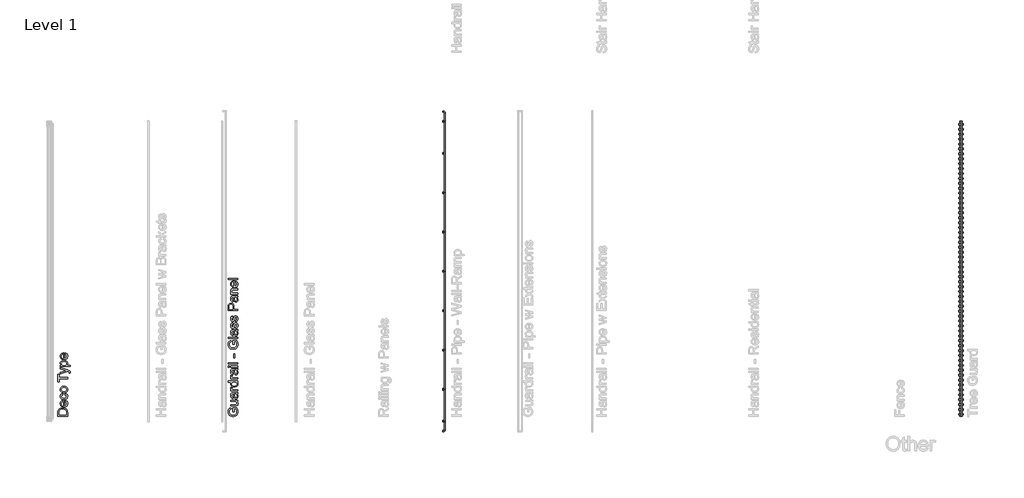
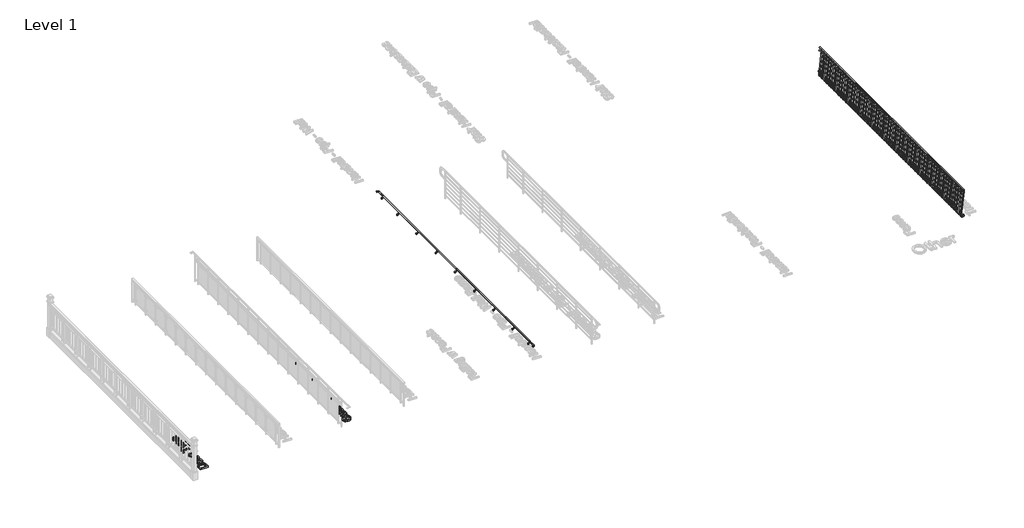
# One storey, part 6 of 14: 2 proxies, 2 railings.
"""IFC4 building model written with IfcOpenShell, lengths in millimetres."""

from ifc_helpers import new_model, si_unit, origin, origin_with_axes, place, context, project, spatial, polyline, outline, extrude, transform, mapped, element, save
from components import handrail_pipe_wall_ramp_800e23aa, tree_guard_ab088758, tree_guard_6df655dc

model = new_model("IFC4")

# Units and contexts
model_context = context("Model", 3, world=origin())
ifc_project = project(units=[si_unit("LENGTHUNIT", "METRE", prefix="MILLI")], contexts=[model_context])

# Site, building, storey
site = spatial("IfcSite", under=ifc_project)
building = spatial("IfcBuilding", under=site)
storey = spatial("IfcBuildingStorey", under=building, Name="Level 1", Elevation=0.0)

# Proxies
placement = place(None, origin())
element("IfcBuildingElementProxy", 1, Name="12\" Arial", ObjectType="12\" Arial", at=placement, inside=storey, context=model_context, shape_type="SweptSolid", body=[
    extrude(outline(polyline([(-12583.8849278, -14350.6919282), (-12621.3987739, -14350.6919282), (-12621.3987739, -14228.7719282), (-12509.2235816, -14228.7719282), (-12488.6166105, -14258.4001734), (-12473.8345432, -14288.9626013), (-12464.9323316, -14320.3859426), (-12461.9649278, -14352.5969282), (-12466.6816345, -14394.6809426), (-12480.8317547, -14432.716832), (-12503.920721, -14464.3141878), (-12535.4539662, -14487.0826013), (-12573.2792066, -14500.848058), (-12615.2441585, -14505.4365436), (-12657.511346, -14500.8663753), (-12696.829447, -14487.1558705), (-12729.8097595, -14464.8728657), (-12753.0635816, -14434.5851974), (-12766.8565143, -14397.6941397), (-12771.4541585, -14355.6009666), (-12768.7889903, -14324.6996686), (-12760.7934855, -14296.9123128), (-12748.0446393, -14273.5119522), (-12731.119447, -14255.7716397), (-12709.2027883, -14242.6472888), (-12681.4795432, -14233.0948128), (-12671.7347355, -14267.6778897), (-12691.5082691, -14275.3986349), (-12706.4277162, -14284.7862551), (-12717.6745432, -14297.2053897), (-12726.4302162, -14314.0206782), (-12732.0627883, -14334.0689714), (-12733.9403124, -14356.1871205), (-12731.9162499, -14382.0786349), (-12725.8440624, -14404.2151013), (-12716.4839182, -14422.5140916), (-12704.5959855, -14436.8931782), (-12675.6912739, -14456.1996205), (-12647.3727162, -14464.9919282), (-12616.7828124, -14467.9226974), (-12580.9083653, -14464.3966157), (-12551.3900239, -14453.8183705), (-12528.4384374, -14436.5085147), (-12512.2642547, -14412.7876013), (-12502.6751441, -14385.0277214), (-12499.4787739, -14355.6009666), (-12501.8874999, -14329.6178657), (-12509.1136778, -14304.2758705), (-12519.0691345, -14282.2676253), (-12529.665697, -14266.2857743), (-12583.8849278, -14266.2857743), (-12583.8849278, -14350.6919282)])), origin_with_axes(), (0.0, 0.0, 1.0), 50.8),
    extrude(outline(polyline([(-12466.6541585, -14031.8242359), (-12504.5343508, -14031.8242359), (-12485.9102282, -14045.3973609), (-12472.6072835, -14061.2051974), (-12464.6255167, -14079.2477455), (-12461.9649278, -14099.5250051), (-12463.8332932, -14117.7965195), (-12469.4383893, -14134.8041397), (-12477.8643508, -14149.0733224), (-12488.1953124, -14159.1295243), (-12515.8178124, -14170.303082), (-12550.6939662, -14172.5011589), (-12687.0480047, -14172.5011589), (-12687.0480047, -14134.9873128), (-12568.3518508, -14134.9873128), (-12530.1053124, -14132.7159666), (-12517.3473076, -14127.2482503), (-12507.6482932, -14117.8789474), (-12501.5211537, -14105.2308464), (-12499.4787739, -14089.9267359), (-12501.566947, -14073.7433945), (-12507.8314662, -14058.6041397), (-12517.6953364, -14046.1208945), (-12530.5815624, -14037.905582), (-12548.2302883, -14033.3445724), (-12572.3816585, -14031.8242359), (-12687.0480047, -14031.8242359), (-12687.0480047, -13994.3103897), (-12466.6541585, -13994.3103897), (-12466.6541585, -14031.8242359)])), origin_with_axes(), (0.0, 0.0, 1.0), 50.8),
    extrude(outline(polyline([(-12494.7895432, -13802.0519282), (-12479.421322, -13819.9754138), (-12469.3651201, -13838.4301013), (-12463.8149758, -13857.8372888), (-12461.9649278, -13878.6182743), (-12466.4160335, -13909.9683464), (-12479.7693508, -13933.0939474), (-12500.0466105, -13947.3539714), (-12525.2695432, -13952.1073128), (-12540.8209374, -13950.3122166), (-12554.9435816, -13944.9269282), (-12567.0330047, -13936.6200291), (-12576.4847355, -13926.0601013), (-12588.7939662, -13899.793082), (-12594.435697, -13867.3348128), (-12600.3705047, -13828.9783705), (-12607.3310816, -13802.2717359), (-12615.6837739, -13802.0519282), (-12632.4257932, -13804.6346686), (-12643.3795432, -13812.3828897), (-12651.5124278, -13829.7110628), (-12654.2233893, -13853.8532743), (-12652.4191345, -13876.2003897), (-12647.0063701, -13891.8067359), (-12636.9959614, -13902.4490916), (-12621.3987739, -13909.9042359), (-12626.0880047, -13947.418082), (-12646.6033893, -13940.9062791), (-12662.7226201, -13931.1889474), (-12675.0501682, -13917.3593801), (-12684.1905047, -13898.5108705), (-12689.8505528, -13875.4585388), (-12691.7372355, -13849.0175051), (-12690.0703605, -13823.6571926), (-12685.0697355, -13803.5539474), (-12677.5504807, -13788.3963753), (-12668.3277162, -13777.873082), (-12656.9251922, -13770.8941878), (-12642.8666585, -13766.3698128), (-12610.0420432, -13764.538082), (-12563.3695432, -13764.538082), (-12498.1965624, -13762.633082), (-12466.6541585, -13755.1596205), (-12466.6541585, -13792.6734666), (-12494.7895432, -13802.0519282)]), holes=[polyline([(-12569.8172355, -13802.0519282), (-12558.3139662, -13862.5723128), (-12552.2326201, -13894.8474089), (-12542.3412739, -13909.4646205), (-12527.9072355, -13914.5934666), (-12516.7519951, -13911.8000772), (-12507.6116585, -13903.4199089), (-12501.5119951, -13889.6361349), (-12499.4787739, -13870.6319282), (-12501.7226441, -13850.4828897), (-12508.4542547, -13832.6784666), (-12518.3730768, -13818.2444282), (-12530.1785816, -13808.2065436), (-12542.3412739, -13803.7554378), (-12559.193197, -13802.2717359), (-12569.8172355, -13802.0519282)])]), origin_with_axes(), (0.0, 0.0, 1.0), 50.8),
    extrude(outline(polyline([(-12466.6541585, -13712.9565436), (-12687.0480047, -13712.9565436), (-12687.0480047, -13680.1319282), (-12654.443197, -13680.1319282), (-12673.3466585, -13668.0058705), (-12684.4835816, -13656.8323128), (-12689.923822, -13645.6221205), (-12691.7372355, -13633.3861589), (-12688.8431008, -13614.7025051), (-12680.160697, -13595.7257743), (-12646.5301201, -13608.2548128), (-12652.300072, -13621.4432743), (-12654.2233893, -13634.6317359), (-12652.3733412, -13645.8327695), (-12646.823197, -13655.8431782), (-12637.9942547, -13663.9302695), (-12626.3078124, -13669.3613513), (-12605.3528124, -13673.9223609), (-12582.4928124, -13675.4426974), (-12466.6541585, -13675.4426974), (-12466.6541585, -13712.9565436)])), origin_with_axes(), (0.0, 0.0, 1.0), 50.8),
    extrude(outline(polyline([(-12466.6541585, -13436.2919282), (-12502.043197, -13436.2919282), (-12484.5089542, -13447.5158585), (-12471.9844951, -13461.1118801), (-12464.4698196, -13477.0799931), (-12461.9649278, -13495.4201974), (-12465.5917547, -13519.6723128), (-12476.4722355, -13541.8728897), (-12493.8462018, -13560.6664474), (-12516.9534855, -13574.6975051), (-12544.8599037, -13583.4348609), (-12576.6312739, -13586.3473128), (-12608.008822, -13583.6638272), (-12636.345697, -13575.6133705), (-12660.0299758, -13562.2051013), (-12677.4497355, -13543.4481782), (-12688.1653605, -13520.7621926), (-12691.7372355, -13495.5667359), (-12689.181971, -13477.2127936), (-12681.5161778, -13460.9836589), (-12669.7656249, -13447.2273609), (-12654.9560816, -13436.2919282), (-12766.7649278, -13436.2919282), (-12766.7649278, -13398.778082), (-12466.6541585, -13398.778082), (-12466.6541585, -13436.2919282)]), holes=[polyline([(-12576.7778124, -13548.8334666), (-12542.8449999, -13544.6021686), (-12518.711947, -13531.9082743), (-12504.2870672, -13513.4627455), (-12499.4787739, -13491.9765436), (-12504.0672595, -13470.4995003), (-12517.8327162, -13452.5210628), (-12541.0315864, -13440.3492118), (-12573.9203124, -13436.2919282), (-12609.8771874, -13440.4224811), (-12634.8070432, -13452.8141397), (-12649.3693028, -13471.2505099), (-12654.2233893, -13493.5151974), (-12649.5616345, -13515.221207), (-12635.5763701, -13533.0073128), (-12611.553221, -13544.8769282), (-12576.7778124, -13548.8334666)])]), origin_with_axes(), (0.0, 0.0, 1.0), 50.8),
    extrude(outline(polyline([(-12466.6541585, -13342.5073128), (-12687.0480047, -13342.5073128), (-12687.0480047, -13309.6826974), (-12654.443197, -13309.6826974), (-12673.3466585, -13297.5566397), (-12684.4835816, -13286.383082), (-12689.923822, -13275.1728897), (-12691.7372355, -13262.9369282), (-12688.8431008, -13244.2532743), (-12680.160697, -13225.2765436), (-12646.5301201, -13237.805582), (-12652.300072, -13250.9940436), (-12654.2233893, -13264.1825051), (-12652.3733412, -13275.3835388), (-12646.823197, -13285.3939474), (-12637.9942547, -13293.4810388), (-12626.3078124, -13298.9121205), (-12605.3528124, -13303.4731301), (-12582.4928124, -13304.9934666), (-12466.6541585, -13304.9934666), (-12466.6541585, -13342.5073128)])), origin_with_axes(), (0.0, 0.0, 1.0), 50.8),
    extrude(outline(polyline([(-12494.7895432, -13061.1534666), (-12479.421322, -13079.0769522), (-12469.3651201, -13097.5316397), (-12463.8149758, -13116.9388272), (-12461.9649278, -13137.7198128), (-12466.4160335, -13169.0698849), (-12479.7693508, -13192.1954859), (-12500.0466105, -13206.4555099), (-12525.2695432, -13211.2088513), (-12540.8209374, -13209.4137551), (-12554.9435816, -13204.0284666), (-12567.0330047, -13195.7215676), (-12576.4847355, -13185.1616397), (-12588.7939662, -13158.8946205), (-12594.435697, -13126.4363513), (-12600.3705047, -13088.0799089), (-12607.3310816, -13061.3732743), (-12615.6837739, -13061.1534666), (-12632.4257932, -13063.736207), (-12643.3795432, -13071.4844282), (-12651.5124278, -13088.8126013), (-12654.2233893, -13112.9548128), (-12652.4191345, -13135.3019282), (-12647.0063701, -13150.9082743), (-12636.9959614, -13161.5506301), (-12621.3987739, -13169.0057743), (-12626.0880047, -13206.5196205), (-12646.6033893, -13200.0078176), (-12662.7226201, -13190.2904859), (-12675.0501682, -13176.4609186), (-12684.1905047, -13157.6124089), (-12689.8505528, -13134.5600772), (-12691.7372355, -13108.1190436), (-12690.0703605, -13082.7587311), (-12685.0697355, -13062.6554859), (-12677.5504807, -13047.4979138), (-12668.3277162, -13036.9746205), (-12656.9251922, -13029.9957263), (-12642.8666585, -13025.4713513), (-12610.0420432, -13023.6396205), (-12563.3695432, -13023.6396205), (-12498.1965624, -13021.7346205), (-12466.6541585, -13014.2611589), (-12466.6541585, -13051.7750051), (-12494.7895432, -13061.1534666)]), holes=[polyline([(-12569.8172355, -13061.1534666), (-12558.3139662, -13121.6738513), (-12552.2326201, -13153.9489474), (-12542.3412739, -13168.5661589), (-12527.9072355, -13173.6950051), (-12516.7519951, -13170.9016157), (-12507.6116585, -13162.5214474), (-12501.5119951, -13148.7376734), (-12499.4787739, -13129.7334666), (-12501.7226441, -13109.5844282), (-12508.4542547, -13091.7800051), (-12518.3730768, -13077.3459666), (-12530.1785816, -13067.308082), (-12542.3412739, -13062.8569763), (-12559.193197, -13061.3732743), (-12569.8172355, -13061.1534666)])]), origin_with_axes(), (0.0, 0.0, 1.0), 50.8),
    extrude(outline(polyline([(-12729.2510816, -12972.058082), (-12766.7649278, -12972.058082), (-12766.7649278, -12934.5442359), (-12729.2510816, -12934.5442359), (-12729.2510816, -12972.058082)])), origin_with_axes(), (0.0, 0.0, 1.0), 50.8),
    extrude(outline(polyline([(-12466.6541585, -12972.058082), (-12687.0480047, -12972.058082), (-12687.0480047, -12934.5442359), (-12466.6541585, -12934.5442359), (-12466.6541585, -12972.058082)])), origin_with_axes(), (0.0, 0.0, 1.0), 50.8),
    extrude(outline(polyline([(-12466.6541585, -12878.2734666), (-12766.7649278, -12878.2734666), (-12766.7649278, -12840.7596205), (-12466.6541585, -12840.7596205), (-12466.6541585, -12878.2734666)])), origin_with_axes(), (0.0, 0.0, 1.0), 50.8),
    extrude(outline(polyline([(-12555.7495432, -12686.0150051), (-12593.2633893, -12686.0150051), (-12593.2633893, -12568.7842359), (-12555.7495432, -12568.7842359), (-12555.7495432, -12686.0150051)])), origin_with_axes(), (0.0, 0.0, 1.0), 50.8),
    extrude(outline(polyline([(-12583.8849278, -12263.9842359), (-12621.3987739, -12263.9842359), (-12621.3987739, -12142.0642359), (-12509.2235816, -12142.0642359), (-12488.6166105, -12171.6924811), (-12473.8345432, -12202.2549089), (-12464.9323316, -12233.6782503), (-12461.9649278, -12265.8892359), (-12466.6816345, -12307.9732503), (-12480.8317547, -12346.0091397), (-12503.920721, -12377.6064955), (-12535.4539662, -12400.3749089), (-12573.2792066, -12414.1403657), (-12615.2441585, -12418.7288513), (-12657.511346, -12414.158683), (-12696.829447, -12400.4481782), (-12729.8097595, -12378.1651734), (-12753.0635816, -12347.8775051), (-12766.8565143, -12310.9864474), (-12771.4541585, -12268.8932743), (-12768.7889903, -12237.9919763), (-12760.7934855, -12210.2046205), (-12748.0446393, -12186.8042599), (-12731.119447, -12169.0639474), (-12709.2027883, -12155.9395964), (-12681.4795432, -12146.3871205), (-12671.7347355, -12180.9701974), (-12691.5082691, -12188.6909426), (-12706.4277162, -12198.0785628), (-12717.6745432, -12210.4976974), (-12726.4302162, -12227.3129859), (-12732.0627883, -12247.3612791), (-12733.9403124, -12269.4794282), (-12731.9162499, -12295.3709426), (-12725.8440624, -12317.5074089), (-12716.4839182, -12335.8063993), (-12704.5959855, -12350.1854859), (-12675.6912739, -12369.4919282), (-12647.3727162, -12378.2842359), (-12616.7828124, -12381.2150051), (-12580.9083653, -12377.6889234), (-12551.3900239, -12367.1106782), (-12528.4384374, -12349.8008224), (-12512.2642547, -12326.0799089), (-12502.6751441, -12298.3200291), (-12499.4787739, -12268.8932743), (-12501.8874999, -12242.9101734), (-12509.1136778, -12217.5681782), (-12519.0691345, -12195.559933), (-12529.665697, -12179.578082), (-12583.8849278, -12179.578082), (-12583.8849278, -12263.9842359)])), origin_with_axes(), (0.0, 0.0, 1.0), 50.8),
    extrude(outline(polyline([(-12466.6541585, -12085.7934666), (-12766.7649278, -12085.7934666), (-12766.7649278, -12048.2796205), (-12466.6541585, -12048.2796205), (-12466.6541585, -12085.7934666)])), origin_with_axes(), (0.0, 0.0, 1.0), 50.8),
    extrude(outline(polyline([(-12494.7895432, -11851.3319282), (-12479.421322, -11869.2554138), (-12469.3651201, -11887.7101013), (-12463.8149758, -11907.1172888), (-12461.9649278, -11927.8982743), (-12466.4160335, -11959.2483464), (-12479.7693508, -11982.3739474), (-12500.0466105, -11996.6339714), (-12525.2695432, -12001.3873128), (-12540.8209374, -11999.5922166), (-12554.9435816, -11994.2069282), (-12567.0330047, -11985.9000291), (-12576.4847355, -11975.3401013), (-12588.7939662, -11949.073082), (-12594.435697, -11916.6148128), (-12600.3705047, -11878.2583705), (-12607.3310816, -11851.5517359), (-12615.6837739, -11851.3319282), (-12632.4257932, -11853.9146686), (-12643.3795432, -11861.6628897), (-12651.5124278, -11878.9910628), (-12654.2233893, -11903.1332743), (-12652.4191345, -11925.4803897), (-12647.0063701, -11941.0867359), (-12636.9959614, -11951.7290916), (-12621.3987739, -11959.1842359), (-12626.0880047, -11996.698082), (-12646.6033893, -11990.1862791), (-12662.7226201, -11980.4689474), (-12675.0501682, -11966.6393801), (-12684.1905047, -11947.7908705), (-12689.8505528, -11924.7385388), (-12691.7372355, -11898.2975051), (-12690.0703605, -11872.9371926), (-12685.0697355, -11852.8339474), (-12677.5504807, -11837.6763753), (-12668.3277162, -11827.153082), (-12656.9251922, -11820.1741878), (-12642.8666585, -11815.6498128), (-12610.0420432, -11813.818082), (-12563.3695432, -11813.818082), (-12498.1965624, -11811.913082), (-12466.6541585, -11804.4396205), (-12466.6541585, -11841.9534666), (-12494.7895432, -11851.3319282)]), holes=[polyline([(-12569.8172355, -11851.3319282), (-12558.3139662, -11911.8523128), (-12552.2326201, -11944.1274089), (-12542.3412739, -11958.7446205), (-12527.9072355, -11963.8734666), (-12516.7519951, -11961.0800772), (-12507.6116585, -11952.6999089), (-12501.5119951, -11938.9161349), (-12499.4787739, -11919.9119282), (-12501.7226441, -11899.7628897), (-12508.4542547, -11881.9584666), (-12518.3730768, -11867.5244282), (-12530.1785816, -11857.4865436), (-12542.3412739, -11853.0354378), (-12559.193197, -11851.5517359), (-12569.8172355, -11851.3319282)])]), origin_with_axes(), (0.0, 0.0, 1.0), 50.8),
    extrude(outline(polyline([(-12532.3033893, -11776.3042359), (-12536.9926201, -11738.7903897), (-12520.9466585, -11732.8738993), (-12509.1503124, -11721.425582), (-12501.8966585, -11704.3721686), (-12499.4787739, -11681.6403897), (-12501.6951682, -11659.1833705), (-12508.3443508, -11643.3938513), (-12517.9792547, -11634.0520243), (-12529.1528124, -11630.938082), (-12538.714447, -11634.0703416), (-12546.0047355, -11643.4671205), (-12556.7020432, -11682.0800051), (-12575.0559855, -11738.570582), (-12584.2787499, -11752.8672407), (-12596.4872355, -11763.2256782), (-12610.9029566, -11769.5176734), (-12626.7474278, -11771.6150051), (-12641.2822114, -11769.9298128), (-12654.6996393, -11764.8742359), (-12666.4685095, -11756.906207), (-12676.0576201, -11746.4836589), (-12687.1579085, -11722.6345243), (-12691.7372355, -11690.3594282), (-12689.896346, -11665.942457), (-12684.3736778, -11644.7126974), (-12675.7095912, -11627.6409666), (-12664.444447, -11615.698082), (-12649.7448076, -11607.7850051), (-12630.7772355, -11602.8026974), (-12626.0880047, -11640.3165436), (-12637.8935095, -11645.0515676), (-12646.7865624, -11654.4208705), (-12652.3641826, -11668.5160388), (-12654.2233893, -11687.4286589), (-12652.4466105, -11708.9698128), (-12647.1162739, -11723.330582), (-12639.4230047, -11731.4085147), (-12630.5574278, -11734.1011589), (-12619.6403124, -11729.6317359), (-12611.3608893, -11715.6373128), (-12603.3745432, -11683.325582), (-12585.7166585, -11628.2637551), (-12577.2723797, -11613.7198128), (-12565.7141585, -11602.6927936), (-12551.0053605, -11595.7413753), (-12533.1093508, -11593.4242359), (-12514.6088701, -11596.1443561), (-12497.2074278, -11604.3047166), (-12482.2696633, -11617.5939234), (-12471.1602162, -11635.700582), (-12464.2637499, -11657.5714474), (-12461.9649278, -11682.1532743), (-12466.3977162, -11719.9785147), (-12479.6960816, -11747.5826974), (-12501.7134855, -11766.0099089), (-12532.3033893, -11776.3042359)])), origin_with_axes(), (0.0, 0.0, 1.0), 50.8),
    extrude(outline(polyline([(-12532.3033893, -11565.2888513), (-12536.9926201, -11527.7750051), (-12520.9466585, -11521.8585147), (-12509.1503124, -11510.4101974), (-12501.8966585, -11493.3567839), (-12499.4787739, -11470.6250051), (-12501.6951682, -11448.1679859), (-12508.3443508, -11432.3784666), (-12517.9792547, -11423.0366397), (-12529.1528124, -11419.9226974), (-12538.714447, -11423.054957), (-12546.0047355, -11432.4517359), (-12556.7020432, -11471.0646205), (-12575.0559855, -11527.5551974), (-12584.2787499, -11541.8518561), (-12596.4872355, -11552.2102936), (-12610.9029566, -11558.5022888), (-12626.7474278, -11560.5996205), (-12641.2822114, -11558.9144282), (-12654.6996393, -11553.8588513), (-12666.4685095, -11545.8908224), (-12676.0576201, -11535.4682743), (-12687.1579085, -11511.6191397), (-12691.7372355, -11479.3440436), (-12689.896346, -11454.9270724), (-12684.3736778, -11433.6973128), (-12675.7095912, -11416.625582), (-12664.444447, -11404.6826974), (-12649.7448076, -11396.7696205), (-12630.7772355, -11391.7873128), (-12626.0880047, -11429.3011589), (-12637.8935095, -11434.036183), (-12646.7865624, -11443.4054859), (-12652.3641826, -11457.5006541), (-12654.2233893, -11476.4132743), (-12652.4466105, -11497.9544282), (-12647.1162739, -11512.3151974), (-12639.4230047, -11520.3931301), (-12630.5574278, -11523.0857743), (-12619.6403124, -11518.6163513), (-12611.3608893, -11504.6219282), (-12603.3745432, -11472.3101974), (-12585.7166585, -11417.2483705), (-12577.2723797, -11402.7044282), (-12565.7141585, -11391.6774089), (-12551.0053605, -11384.7259907), (-12533.1093508, -11382.4088513), (-12514.6088701, -11385.1289714), (-12497.2074278, -11393.289332), (-12482.2696633, -11406.5785388), (-12471.1602162, -11424.6851974), (-12464.2637499, -11446.5560628), (-12461.9649278, -11471.1378897), (-12466.3977162, -11508.9631301), (-12479.6960816, -11536.5673128), (-12501.7134855, -11554.9945243), (-12532.3033893, -11565.2888513)])), origin_with_axes(), (0.0, 0.0, 1.0), 50.8),
    extrude(outline(polyline([(-12466.6541585, -11218.2857743), (-12766.7649278, -11218.2857743), (-12766.7649278, -11107.063082), (-12763.9074278, -11062.2223128), (-12758.5679326, -11042.2289714), (-12749.8763701, -11025.7708705), (-12737.4389182, -11012.5182984), (-12720.8617547, -11002.1415436), (-12701.3080287, -10995.4374089), (-12679.9408893, -10993.2026974), (-12661.5182571, -10994.7115856), (-12644.5701682, -10999.2382503), (-12629.0966225, -11006.7826914), (-12615.0976201, -11017.3449089), (-12603.4936057, -11031.8453476), (-12595.2050239, -11051.2044522), (-12590.2318749, -11075.4222226), (-12588.5741585, -11104.4986589), (-12588.5741585, -11180.7719282), (-12466.6541585, -11180.7719282), (-12466.6541585, -11218.2857743)]), holes=[polyline([(-12626.0880047, -11180.7719282), (-12626.0880047, -11102.300582), (-12629.5316585, -11069.0363513), (-12639.8626201, -11047.055582), (-12656.4397835, -11034.8013032), (-12678.6220432, -11030.7165436), (-12695.4739662, -11033.1252695), (-12709.688197, -11040.3514474), (-12720.3855047, -11051.4975291), (-12726.6866585, -11065.6659666), (-12729.2510816, -11103.1798128), (-12729.2510816, -11180.7719282), (-12626.0880047, -11180.7719282)])]), origin_with_axes(), (0.0, 0.0, 1.0), 50.8),
    extrude(outline(polyline([(-12494.7895432, -10805.6334666), (-12479.421322, -10823.5569522), (-12469.3651201, -10842.0116397), (-12463.8149758, -10861.4188272), (-12461.9649278, -10882.1998128), (-12466.4160335, -10913.5498849), (-12479.7693508, -10936.6754859), (-12500.0466105, -10950.9355099), (-12525.2695432, -10955.6888513), (-12540.8209374, -10953.8937551), (-12554.9435816, -10948.5084666), (-12567.0330047, -10940.2015676), (-12576.4847355, -10929.6416397), (-12588.7939662, -10903.3746205), (-12594.435697, -10870.9163513), (-12600.3705047, -10832.5599089), (-12607.3310816, -10805.8532743), (-12615.6837739, -10805.6334666), (-12632.4257932, -10808.216207), (-12643.3795432, -10815.9644282), (-12651.5124278, -10833.2926013), (-12654.2233893, -10857.4348128), (-12652.4191345, -10879.7819282), (-12647.0063701, -10895.3882743), (-12636.9959614, -10906.0306301), (-12621.3987739, -10913.4857743), (-12626.0880047, -10950.9996205), (-12646.6033893, -10944.4878176), (-12662.7226201, -10934.7704859), (-12675.0501682, -10920.9409186), (-12684.1905047, -10902.0924089), (-12689.8505528, -10879.0400772), (-12691.7372355, -10852.5990436), (-12690.0703605, -10827.2387311), (-12685.0697355, -10807.1354859), (-12677.5504807, -10791.9779138), (-12668.3277162, -10781.4546205), (-12656.9251922, -10774.4757263), (-12642.8666585, -10769.9513513), (-12610.0420432, -10768.1196205), (-12563.3695432, -10768.1196205), (-12498.1965624, -10766.2146205), (-12466.6541585, -10758.7411589), (-12466.6541585, -10796.2550051), (-12494.7895432, -10805.6334666)]), holes=[polyline([(-12569.8172355, -10805.6334666), (-12558.3139662, -10866.1538513), (-12552.2326201, -10898.4289474), (-12542.3412739, -10913.0461589), (-12527.9072355, -10918.1750051), (-12516.7519951, -10915.3816157), (-12507.6116585, -10907.0014474), (-12501.5119951, -10893.2176734), (-12499.4787739, -10874.2134666), (-12501.7226441, -10854.0644282), (-12508.4542547, -10836.2600051), (-12518.3730768, -10821.8259666), (-12530.1785816, -10811.788082), (-12542.3412739, -10807.3369763), (-12559.193197, -10805.8532743), (-12569.8172355, -10805.6334666)])]), origin_with_axes(), (0.0, 0.0, 1.0), 50.8),
    extrude(outline(polyline([(-12466.6541585, -10716.538082), (-12687.0480047, -10716.538082), (-12687.0480047, -10679.0242359), (-12656.2749278, -10679.0242359), (-12671.7896874, -10665.9914714), (-12682.8716585, -10650.339332), (-12689.5208412, -10632.0678176), (-12691.7372355, -10611.1769282), (-12689.951298, -10592.6856061), (-12684.5934855, -10575.7512551), (-12676.3323797, -10561.6286109), (-12665.8365624, -10551.5724089), (-12638.250697, -10540.325582), (-12601.9824278, -10538.3473128), (-12466.6541585, -10538.3473128), (-12466.6541585, -10575.8611589), (-12596.9268508, -10575.8611589), (-12630.1178124, -10580.1840436), (-12639.9999999, -10586.1646445), (-12647.6657932, -10595.4606782), (-12652.5839903, -10607.3760868), (-12654.2233893, -10621.2148128), (-12650.5416105, -10643.1864234), (-12639.4962739, -10661.9158705), (-12630.4795792, -10669.4007803), (-12618.1566105, -10674.7471445), (-12583.5918508, -10679.0242359), (-12466.6541585, -10679.0242359), (-12466.6541585, -10716.538082)])), origin_with_axes(), (0.0, 0.0, 1.0), 50.8),
    extrude(outline(polyline([(-12532.3033893, -10332.4607743), (-12527.6141585, -10295.6796205), (-12499.900072, -10308.9321926), (-12479.183197, -10330.0795243), (-12466.2694951, -10358.6453657), (-12461.9649278, -10394.1534666), (-12463.8218448, -10417.4301854), (-12469.392596, -10438.169957), (-12478.6771814, -10456.3727815), (-12491.6756008, -10472.0386589), (-12508.0260876, -10484.6363873), (-12527.3668749, -10493.6347647), (-12549.6979626, -10499.0337912), (-12575.0193508, -10500.8334666), (-12601.1993629, -10499.0154739), (-12624.2745912, -10493.5614955), (-12644.2450359, -10484.4715315), (-12661.110697, -10471.745582), (-12674.5098076, -10456.1209186), (-12684.0806008, -10438.3348128), (-12689.8230768, -10418.3872647), (-12691.7372355, -10396.2782743), (-12689.8276561, -10374.8813693), (-12684.0989182, -10355.5314234), (-12674.5510215, -10338.2284366), (-12661.1839662, -10322.9724089), (-12644.3549398, -10310.5189294), (-12624.4211297, -10301.6235868), (-12601.3825359, -10296.2863813), (-12575.2391585, -10294.5073128), (-12565.1280047, -10294.7271205), (-12565.1280047, -10463.3196205), (-12537.047572, -10456.8261349), (-12516.4039662, -10441.741832), (-12503.710072, -10419.9717118), (-12499.4787739, -10393.4207743), (-12501.4387258, -10373.4549089), (-12507.3185816, -10356.6396205), (-12517.4846874, -10342.9749089), (-12532.3033893, -10332.4607743)]), holes=[polyline([(-12602.6418508, -10463.3196205), (-12602.6418508, -10332.0211589), (-12622.4611778, -10337.0950532), (-12636.6387739, -10347.0413513), (-12649.8272355, -10368.9122166), (-12654.2233893, -10396.4248128), (-12650.7156249, -10421.7118561), (-12640.1923316, -10442.6210628), (-12623.7891826, -10457.1558464), (-12602.6418508, -10463.3196205)])]), origin_with_axes(), (0.0, 0.0, 1.0), 50.8),
    extrude(outline(polyline([(-12466.6541585, -10256.9934666), (-12766.7649278, -10256.9934666), (-12766.7649278, -10219.4796205), (-12466.6541585, -10219.4796205), (-12466.6541585, -10256.9934666)])), origin_with_axes(), (0.0, 0.0, 1.0), 50.8),
])
element("IfcBuildingElementProxy", 2, Name="12\" Arial", ObjectType="12\" Arial", at=placement, inside=storey, context=model_context, shape_type="SweptSolid", body=[
    extrude(outline(polyline([(-17740.5753423, -14491.3688513), (-18040.6861115, -14491.3688513), (-18040.6861115, -14387.8394282), (-18036.3632269, -14334.2796205), (-18028.0288519, -14310.3572166), (-18014.8953423, -14290.1715436), (-17992.0353423, -14269.4180339), (-17963.6068807, -14254.6359666), (-17930.1594769, -14245.788707), (-17892.24265, -14242.8396205), (-17860.0316644, -14244.836207), (-17831.6856307, -14250.8259666), (-17807.5525778, -14259.9479859), (-17787.9805346, -14271.3413513), (-17772.5298855, -14284.4565436), (-17760.7610153, -14298.7440436), (-17752.0328182, -14315.1471926), (-17745.7041884, -14334.609332), (-17740.5753423, -14382.8571205), (-17740.5753423, -14491.3688513)]), holes=[polyline([(-17778.0891884, -14453.8550051), (-17778.0891884, -14387.473082), (-17779.4446692, -14360.0154378), (-17783.5111115, -14339.1886589), (-17790.0503903, -14323.4724089), (-17798.8243807, -14311.3463513), (-17815.062674, -14298.3135868), (-17836.0817846, -14288.5229859), (-17861.973299, -14282.3958464), (-17892.8288038, -14280.3534666), (-17933.7130346, -14284.3557984), (-17963.8999576, -14296.3627936), (-17984.63515, -14314.1031061), (-17997.1641884, -14335.3053897), (-18001.6702461, -14356.8831782), (-18003.1722653, -14388.4988513), (-18003.1722653, -14453.8550051), (-17778.0891884, -14453.8550051)])]), origin_with_axes(), (0.0, 0.0, 1.0), 50.8),
    extrude(outline(polyline([(-17806.224573, -14041.6423128), (-17801.5353423, -14004.8611589), (-17773.8212557, -14018.1137311), (-17753.1043807, -14039.2610628), (-17740.1906788, -14067.8269041), (-17735.8861115, -14103.3350051), (-17737.7430286, -14126.6117239), (-17743.3137798, -14147.3514955), (-17752.5983651, -14165.55432), (-17765.5967846, -14181.2201974), (-17781.9472713, -14193.8179258), (-17801.2880586, -14202.8163032), (-17823.6191463, -14208.2153296), (-17848.9405346, -14210.0150051), (-17875.1205466, -14208.1970123), (-17898.195775, -14202.7430339), (-17918.1662197, -14193.65307), (-17935.0318807, -14180.9271205), (-17948.4309913, -14165.302457), (-17958.0017846, -14147.5163513), (-17963.7442605, -14127.5688032), (-17965.6584192, -14105.4598128), (-17963.7488399, -14084.0629077), (-17958.0201019, -14064.7129618), (-17948.4722052, -14047.4099751), (-17935.10515, -14032.1539474), (-17918.2761235, -14019.7004678), (-17898.3423134, -14010.8051253), (-17875.3037197, -14005.4679198), (-17849.1603423, -14003.6888513), (-17839.0491884, -14003.9086589), (-17839.0491884, -14172.5011589), (-17810.9687557, -14166.0076734), (-17790.32515, -14150.9233705), (-17777.6312557, -14129.1532503), (-17773.3999576, -14102.6023128), (-17775.3599096, -14082.6364474), (-17781.2397653, -14065.8211589), (-17791.4058711, -14052.1564474), (-17806.224573, -14041.6423128)]), holes=[polyline([(-17876.5630346, -14172.5011589), (-17876.5630346, -14041.2026974), (-17896.3823615, -14046.2765916), (-17910.5599576, -14056.2228897), (-17923.7484192, -14078.0937551), (-17928.144573, -14105.6063513), (-17924.6368086, -14130.8933945), (-17914.1135153, -14151.8026013), (-17897.7103663, -14166.3373849), (-17876.5630346, -14172.5011589)])]), origin_with_axes(), (0.0, 0.0, 1.0), 50.8),
    extrude(outline(polyline([(-17820.2922653, -13825.498082), (-17815.6030346, -13787.9842359), (-17782.2380586, -13798.4434186), (-17757.0242846, -13818.0978897), (-17741.1706548, -13845.0976013), (-17735.8861115, -13877.5925051), (-17737.7292906, -13898.6322226), (-17743.2588278, -13917.4967599), (-17752.4747233, -13934.1861169), (-17765.3769769, -13948.7002936), (-17781.7228843, -13960.4485568), (-17801.2697413, -13968.8401734), (-17824.0175478, -13973.8751433), (-17849.9663038, -13975.5534666), (-17883.3495971, -13972.686808), (-17912.2817846, -13964.086832), (-17935.6455105, -13949.6161589), (-17952.3234192, -13929.1374089), (-17962.3246692, -13904.6380099), (-17965.6584192, -13878.1053897), (-17961.0790923, -13846.4072888), (-17947.3411115, -13821.0652936), (-17925.1771692, -13802.8853657), (-17895.3199576, -13792.6734666), (-17890.6307269, -13830.1873128), (-17906.9972413, -13836.9921926), (-17918.7294769, -13847.5887551), (-17925.790799, -13861.3908464), (-17928.144573, -13877.8123128), (-17923.5102942, -13902.0552695), (-17909.6074576, -13921.2976013), (-17885.6850538, -13933.8541157), (-17850.992073, -13938.0396205), (-17815.8320009, -13933.9457022), (-17791.8271692, -13921.6639474), (-17778.0067605, -13902.7696445), (-17773.3999576, -13878.838082), (-17776.275775, -13859.4125772), (-17784.9032269, -13843.4856782), (-17799.5021211, -13831.8999811), (-17820.2922653, -13825.498082)])), origin_with_axes(), (0.0, 0.0, 1.0), 50.8),
    extrude(outline(polyline([(-17850.7722653, -13764.538082), (-17879.3152101, -13762.5094402), (-17903.910775, -13756.4235147), (-17924.5589601, -13746.2803056), (-17941.2597653, -13732.0798128), (-17951.9341764, -13717.7831541), (-17959.5587557, -13702.0027936), (-17964.1335033, -13684.7387311), (-17965.6584192, -13665.9909666), (-17963.8015021, -13645.2946986), (-17958.2307509, -13626.5812791), (-17948.9461656, -13609.8507082), (-17935.9477461, -13595.1029859), (-17919.6751079, -13583.0662251), (-17900.5678663, -13574.4685388), (-17878.6260213, -13569.309927), (-17853.849573, -13567.5903897), (-17815.9510634, -13570.6310628), (-17787.1013038, -13579.753082), (-17765.4960394, -13594.6908464), (-17749.3310153, -13615.1787551), (-17739.2473375, -13639.5132984), (-17735.8861115, -13665.9909666), (-17737.7361596, -13686.9894702), (-17743.2863038, -13705.8769041), (-17752.5365442, -13722.6532683), (-17765.4868807, -13737.3185628), (-17781.9175057, -13749.2271025), (-17801.6086115, -13757.7332022), (-17824.560198, -13762.8368621), (-17850.7722653, -13764.538082)]), holes=[polyline([(-17850.8455346, -13727.0242359), (-17816.8944048, -13722.6830339), (-17792.7064, -13709.6594282), (-17778.2265682, -13690.0599089), (-17773.3999576, -13665.9909666), (-17778.2540442, -13642.0319282), (-17792.8163038, -13622.4690436), (-17817.3248615, -13609.4454378), (-17852.0178423, -13605.1042359), (-17884.9798375, -13609.4729138), (-17908.8381307, -13622.5789474), (-17923.3179625, -13642.169308), (-17928.144573, -13665.9909666), (-17923.3362798, -13690.0599089), (-17908.9114, -13709.6594282), (-17884.7783471, -13722.6830339), (-17850.8455346, -13727.0242359)])]), origin_with_axes(), (0.0, 0.0, 1.0), 50.8),
    extrude(outline(polyline([(-17740.5753423, -13328.4396205), (-18003.1722653, -13328.4396205), (-18003.1722653, -13426.9134666), (-18040.6861115, -13426.9134666), (-18040.6861115, -13192.4519282), (-18003.1722653, -13192.4519282), (-18003.1722653, -13290.9257743), (-17740.5753423, -13290.9257743), (-17740.5753423, -13328.4396205)])), origin_with_axes(), (0.0, 0.0, 1.0), 50.8),
    extrude(outline(polyline([(-17656.1691884, -13154.938082), (-17692.2909192, -13159.6273128), (-17688.9938038, -13140.5773128), (-17693.1335153, -13122.7728897), (-17704.6734192, -13111.8557743), (-17732.2959192, -13101.598082), (-17741.3813038, -13098.6673128), (-17960.9691884, -13178.3842359), (-17960.9691884, -13138.8188513), (-17838.609573, -13096.5425051), (-17789.6657269, -13081.8153897), (-17832.894573, -13067.0882743), (-17960.9691884, -13023.6396205), (-17960.9691884, -12984.3673128), (-17735.2999576, -13061.0801974), (-17686.3561115, -13081.0094282), (-17670.731448, -13091.2121686), (-17659.9059192, -13102.7703897), (-17653.586448, -13116.1969763), (-17651.4799576, -13132.0048128), (-17656.1691884, -13154.938082)])), origin_with_axes(), (0.0, 0.0, 1.0), 50.8),
    extrude(outline(polyline([(-17656.1691884, -12953.3011589), (-17960.9691884, -12953.3011589), (-17960.9691884, -12915.7873128), (-17924.1880346, -12915.7873128), (-17942.3313278, -12903.5513513), (-17955.290823, -12889.8500051), (-17963.0665201, -12873.8773128), (-17965.6584192, -12854.8273128), (-17962.0315923, -12829.4578416), (-17951.1511115, -12807.275582), (-17933.6764, -12789.2147166), (-17910.2668807, -12776.2094282), (-17882.6260634, -12768.3513032), (-17852.4574576, -12765.7319282), (-17820.3746932, -12768.6901734), (-17791.6806307, -12777.5649089), (-17767.8314961, -12792.0722166), (-17750.2835153, -12811.9281782), (-17739.4854625, -12835.0537791), (-17735.8861115, -12859.3700051), (-17738.2948375, -12876.6157503), (-17745.5210153, -12892.0114474), (-17756.4289721, -12905.1907503), (-17769.8830346, -12915.7873128), (-17656.1691884, -12915.7873128), (-17656.1691884, -12953.3011589)]), holes=[polyline([(-17849.0138038, -12915.7873128), (-17815.3832269, -12911.7300291), (-17791.8638038, -12899.5581782), (-17778.0159192, -12881.598058), (-17773.3999576, -12860.1759666), (-17778.180775, -12838.4058464), (-17792.5232269, -12819.9877936), (-17816.9035634, -12807.4312791), (-17851.7980346, -12803.2457743), (-17885.2454384, -12807.3305339), (-17909.094573, -12819.5848128), (-17923.382073, -12837.517457), (-17928.144573, -12858.6373128), (-17923.0798375, -12879.8395964), (-17907.8856307, -12898.4591397), (-17883.0382028, -12911.4552695), (-17849.0138038, -12915.7873128)])]), origin_with_axes(), (0.0, 0.0, 1.0), 50.8),
    extrude(outline(polyline([(-17806.224573, -12569.2238513), (-17801.5353423, -12532.4426974), (-17773.8212557, -12545.6952695), (-17753.1043807, -12566.8426013), (-17740.1906788, -12595.4084426), (-17735.8861115, -12630.9165436), (-17737.7430286, -12654.1932623), (-17743.3137798, -12674.9330339), (-17752.5983651, -12693.1358585), (-17765.5967846, -12708.8017359), (-17781.9472713, -12721.3994642), (-17801.2880586, -12730.3978416), (-17823.6191463, -12735.7968681), (-17848.9405346, -12737.5965436), (-17875.1205466, -12735.7785508), (-17898.195775, -12730.3245724), (-17918.1662197, -12721.2346085), (-17935.0318807, -12708.5086589), (-17948.4309913, -12692.8839955), (-17958.0017846, -12675.0978897), (-17963.7442605, -12655.1503416), (-17965.6584192, -12633.0413513), (-17963.7488399, -12611.6444462), (-17958.0201019, -12592.2945003), (-17948.4722052, -12574.9915135), (-17935.10515, -12559.7354859), (-17918.2761235, -12547.2820063), (-17898.3423134, -12538.3866638), (-17875.3037197, -12533.0494582), (-17849.1603423, -12531.2703897), (-17839.0491884, -12531.4901974), (-17839.0491884, -12700.0826974), (-17810.9687557, -12693.5892118), (-17790.32515, -12678.5049089), (-17777.6312557, -12656.7347888), (-17773.3999576, -12630.1838513), (-17775.3599096, -12610.2179859), (-17781.2397653, -12593.4026974), (-17791.4058711, -12579.7379859), (-17806.224573, -12569.2238513)]), holes=[polyline([(-17876.5630346, -12700.0826974), (-17876.5630346, -12568.7842359), (-17896.3823615, -12573.8581301), (-17910.5599576, -12583.8044282), (-17923.7484192, -12605.6752936), (-17928.144573, -12633.1878897), (-17924.6368086, -12658.474933), (-17914.1135153, -12679.3841397), (-17897.7103663, -12693.9189234), (-17876.5630346, -12700.0826974)])]), origin_with_axes(), (0.0, 0.0, 1.0), 50.8),
])

# Railings
handrail_pipe_wall_ramp_shape = handrail_pipe_wall_ramp_800e23aa(model_context)
element("IfcRailing", 3, ObjectType="Handrail - Pipe - Wall-Ramp", at=placement, inside=storey, context=model_context, shape_type="MappedRepresentation", body=[
    mapped(handrail_pipe_wall_ramp_shape, transform((0.0, 0.0, 0.0), x_axis=(1.0, 0.0, 0.0), y_axis=(0.0, 1.0, 0.0), z_axis=(0.0, 0.0, 1.0))),
])
tree_guard_shape = tree_guard_ab088758(model_context)
tree_guard_2_shape = tree_guard_6df655dc(model_context)
element("IfcRailing", 4, ObjectType="Tree Guard", at=placement, inside=storey, context=model_context, shape_type="MappedRepresentation", body=[
    mapped(tree_guard_shape, transform((0.0, 0.0, 0.0), x_axis=(1.0, 0.0, 0.0), y_axis=(0.0, 1.0, 0.0), z_axis=(0.0, 0.0, 1.0))),
    mapped(tree_guard_2_shape, transform((0.0, 0.0, 0.0), x_axis=(1.0, 0.0, 0.0), y_axis=(0.0, 1.0, 0.0), z_axis=(0.0, 0.0, 1.0))),
])

save(model, "model.ifc")
